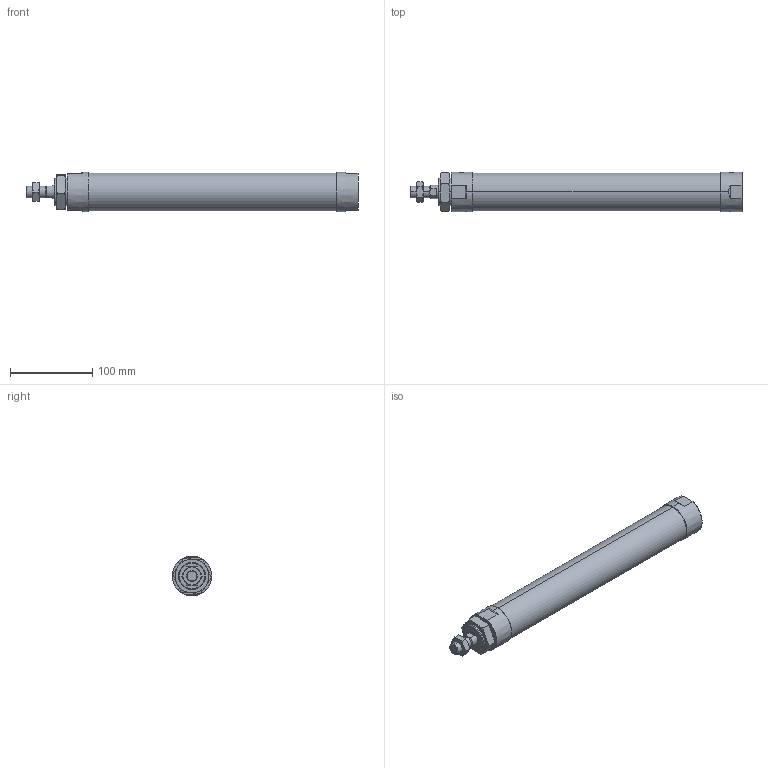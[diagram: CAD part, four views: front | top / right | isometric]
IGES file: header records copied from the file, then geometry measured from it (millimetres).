
Start section: SolidWorks IGES file using analytic representation for surfaces
Global section: file name: C:\Users\Toshiba\Desktop\JGND2-40-250-N.IGS; native system: SolidWorks 2014; preprocessor: SolidWorks 2014; author: Toshiba; date: 160804.111530; units: millimetre
Bounding box: 403 x 48 x 48 mm (x, y, z)
Surface area: 64967.7 mm2 (no closed solid volume)
Topology: 0 solids, 0 shells, 89 faces, 1702 edges, 1698 vertices
Faces by surface type: bspline 56, revolution 33
